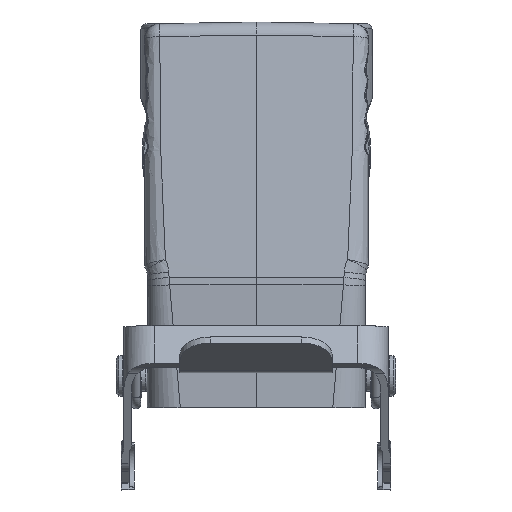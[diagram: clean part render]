
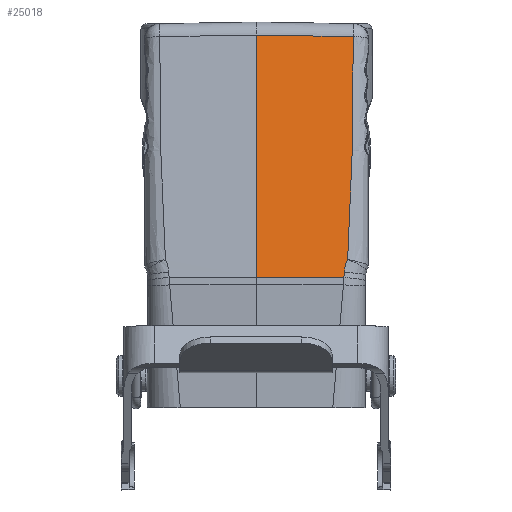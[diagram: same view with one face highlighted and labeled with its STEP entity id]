
A CAD part, left-side view. The second image highlights one B-rep face of the part: STEP entity #25018.
In plain terms, the highlighted planar face has unit normal (-0.989, -0.018, 0.145).
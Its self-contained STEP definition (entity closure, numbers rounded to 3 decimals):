
#76 = ORIENTED_EDGE ( 'NONE', *, *, #34374, .T. ) ;
#375 = LINE ( 'NONE', #24202, #25256 ) ;
#611 = CARTESIAN_POINT ( 'NONE',  ( -11.305, 47.093, 68.144 ) ) ;
#768 = CARTESIAN_POINT ( 'NONE',  ( -6.779, 28.169, 96.649 ) ) ;
#906 = CARTESIAN_POINT ( 'NONE',  ( -6.986, 28.2, 95.248 ) ) ;
#1002 = CARTESIAN_POINT ( 'NONE',  ( -10.369, 29.149, 72.365 ) ) ;
#1374 = VERTEX_POINT ( 'NONE', #24128 ) ;
#3706 = CARTESIAN_POINT ( 'NONE',  ( -5.218, 28.047, 107.248 ) ) ;
#3969 = CARTESIAN_POINT ( 'NONE',  ( -6.546, 28.138, 98.232 ) ) ;
#4071 = CARTESIAN_POINT ( 'NONE',  ( -10.619, 29.717, 70.721 ) ) ;
#4188 = CARTESIAN_POINT ( 'NONE',  ( -10.684, 29.786, 70.291 ) ) ;
#4880 = CARTESIAN_POINT ( 'NONE',  ( -11.198, 47.093, 68.867 ) ) ;
#6269 = DIRECTION ( 'NONE',  ( -0.015, 1., 0.017 ) ) ;
#6573 = CARTESIAN_POINT ( 'NONE',  ( -5.54, 28.057, 105.059 ) ) ;
#6654 = DIRECTION ( 'NONE',  ( 0.145, 0., 0.989 ) ) ;
#6709 = CARTESIAN_POINT ( 'NONE',  ( -6.382, 28.12, 99.343 ) ) ;
#6831 = B_SPLINE_CURVE_WITH_KNOTS ( 'NONE', 3,
 ( #25698, #22529, #7640, #37821 ),
 .UNSPECIFIED., .F., .F.,
 ( 4, 4 ),
 ( 0., 1. ),
 .UNSPECIFIED. ) ;
#7228 = CARTESIAN_POINT ( 'NONE',  ( -4.771, 28.04, 110.287 ) ) ;
#7365 = CARTESIAN_POINT ( 'NONE',  ( -4.971, 28.042, 108.927 ) ) ;
#7640 = CARTESIAN_POINT ( 'NONE',  ( -11.098, 41.354, 68.86 ) ) ;
#7820 = AXIS2_PLACEMENT_3D ( 'NONE', #16721, #8184, #38251 ) ;
#8184 = DIRECTION ( 'NONE',  ( -0.989, -0.017, 0.145 ) ) ;
#9579 = CARTESIAN_POINT ( 'NONE',  ( -6.333, 28.114, 99.675 ) ) ;
#9841 = CARTESIAN_POINT ( 'NONE',  ( -5.525, 28.057, 105.165 ) ) ;
#10365 = CARTESIAN_POINT ( 'NONE',  ( -4.839, 28.04, 109.824 ) ) ;
#10660 = FACE_OUTER_BOUND ( 'NONE', #18078, .T. ) ;
#11212 = ORIENTED_EDGE ( 'NONE', *, *, #23414, .F. ) ;
#12618 = CARTESIAN_POINT ( 'NONE',  ( -5.514, 28.056, 105.241 ) ) ;
#12878 = ORIENTED_EDGE ( 'NONE', *, *, #29741, .T. ) ;
#13116 = CARTESIAN_POINT ( 'NONE',  ( -6.19, 28.099, 100.644 ) ) ;
#13510 = CARTESIAN_POINT ( 'NONE',  ( -4.707, 28.039, 110.725 ) ) ;
#13807 = CARTESIAN_POINT ( 'NONE',  ( -10.818, 29.836, 69.387 ) ) ;
#14890 = VERTEX_POINT ( 'NONE', #26983 ) ;
#15633 = CARTESIAN_POINT ( 'NONE',  ( -7.186, 28.233, 93.891 ) ) ;
#15762 = CARTESIAN_POINT ( 'NONE',  ( -7.365, 28.265, 92.679 ) ) ;
#15887 = CARTESIAN_POINT ( 'NONE',  ( -5.51, 28.056, 105.265 ) ) ;
#16024 = CARTESIAN_POINT ( 'NONE',  ( -10.369, 29.149, 72.365 ) ) ;
#16721 = CARTESIAN_POINT ( 'NONE',  ( -11.305, 47.093, 68.144 ) ) ;
#16801 = CARTESIAN_POINT ( 'NONE',  ( -4.737, 28.039, 110.522 ) ) ;
#18078 = EDGE_LOOP ( 'NONE', ( #12878, #31036, #33351, #76, #11212, #32010 ) ) ;
#18476 = CARTESIAN_POINT ( 'NONE',  ( -10.429, 29.342, 71.972 ) ) ;
#18612 = VECTOR ( 'NONE', #6654, 1000. ) ;
#18723 = EDGE_CURVE ( 'NONE', #31611, #1374, #36209, .T. ) ;
#18751 = CARTESIAN_POINT ( 'NONE',  ( -7.135, 28.225, 94.235 ) ) ;
#19012 = CARTESIAN_POINT ( 'NONE',  ( -7.16, 28.229, 94.064 ) ) ;
#19139 = CARTESIAN_POINT ( 'NONE',  ( -4.719, 28.039, 110.64 ) ) ;
#19270 = CARTESIAN_POINT ( 'NONE',  ( -4.704, 28.039, 110.744 ) ) ;
#19587 = PLANE ( 'NONE',  #7820 ) ;
#21322 = CARTESIAN_POINT ( 'NONE',  ( -10.491, 29.494, 71.565 ) ) ;
#21483 = CARTESIAN_POINT ( 'NONE',  ( -9.832, 28.931, 75.978 ) ) ;
#21609 = CARTESIAN_POINT ( 'NONE',  ( -6.35, 28.116, 99.563 ) ) ;
#22273 = CARTESIAN_POINT ( 'NONE',  ( -4.409, 28.036, 112.748 ) ) ;
#22529 = CARTESIAN_POINT ( 'NONE',  ( -10.998, 35.615, 68.853 ) ) ;
#23414 = EDGE_CURVE ( 'NONE', #33837, #14890, #28008, .T. ) ;
#24128 = CARTESIAN_POINT ( 'NONE',  ( -10.369, 29.149, 72.365 ) ) ;
#24202 = CARTESIAN_POINT ( 'NONE',  ( -3.895, 28.041, 116.248 ) ) ;
#24508 = CARTESIAN_POINT ( 'NONE',  ( -5.633, 28.061, 104.43 ) ) ;
#24769 = CARTESIAN_POINT ( 'NONE',  ( -7.245, 28.243, 93.487 ) ) ;
#24911 = CARTESIAN_POINT ( 'NONE',  ( -6.431, 28.125, 99.012 ) ) ;
#25018 = ADVANCED_FACE ( 'NONE', ( #10660 ), #19587, .T. ) ;
#25256 = VECTOR ( 'NONE', #6269, 1000. ) ;
#25331 = EDGE_CURVE ( 'NONE', #1374, #38368, #37408, .T. ) ;
#25419 = VERTEX_POINT ( 'NONE', #31224 ) ;
#25595 = CARTESIAN_POINT ( 'NONE',  ( -10.898, 29.876, 68.845 ) ) ;
#25698 = CARTESIAN_POINT ( 'NONE',  ( -10.898, 29.876, 68.845 ) ) ;
#26848 = CARTESIAN_POINT ( 'NONE',  ( -10.748, 29.811, 69.855 ) ) ;
#26983 = CARTESIAN_POINT ( 'NONE',  ( -4.182, 47.093, 116.581 ) ) ;
#27536 = CARTESIAN_POINT ( 'NONE',  ( -7.143, 28.226, 94.18 ) ) ;
#27661 = CARTESIAN_POINT ( 'NONE',  ( -5.755, 28.067, 103.6 ) ) ;
#27806 = CARTESIAN_POINT ( 'NONE',  ( -5.571, 28.059, 104.849 ) ) ;
#28008 = LINE ( 'NONE', #611, #18612 ) ;
#28062 = CARTESIAN_POINT ( 'NONE',  ( -5.994, 28.082, 101.976 ) ) ;
#28582 = CARTESIAN_POINT ( 'NONE',  ( -3.895, 28.041, 116.248 ) ) ;
#28615 = CARTESIAN_POINT ( 'NONE',  ( -10.867, 29.858, 69.05 ) ) ;
#29259 = B_SPLINE_CURVE_WITH_KNOTS ( 'NONE', 3,
 ( #25595, #28615, #13807, #34798 ),
 .UNSPECIFIED., .F., .F.,
 ( 4, 4 ),
 ( 0., 1. ),
 .UNSPECIFIED. ) ;
#29741 = EDGE_CURVE ( 'NONE', #25419, #31611, #29259, .T. ) ;
#30570 = CARTESIAN_POINT ( 'NONE',  ( -5.517, 28.056, 105.218 ) ) ;
#30698 = CARTESIAN_POINT ( 'NONE',  ( -9.026, 28.652, 81.43 ) ) ;
#30822 = CARTESIAN_POINT ( 'NONE',  ( -5.511, 28.056, 105.256 ) ) ;
#31036 = ORIENTED_EDGE ( 'NONE', *, *, #18723, .T. ) ;
#31080 = CARTESIAN_POINT ( 'NONE',  ( -8.078, 28.409, 87.844 ) ) ;
#31224 = CARTESIAN_POINT ( 'NONE',  ( -10.898, 29.876, 68.845 ) ) ;
#31611 = VERTEX_POINT ( 'NONE', #36094 ) ;
#31737 = CARTESIAN_POINT ( 'NONE',  ( -4.712, 28.039, 110.691 ) ) ;
#32010 = ORIENTED_EDGE ( 'NONE', *, *, #37953, .F. ) ;
#33351 = ORIENTED_EDGE ( 'NONE', *, *, #25331, .T. ) ;
#33602 = CARTESIAN_POINT ( 'NONE',  ( -5.401, 28.052, 106.009 ) ) ;
#33837 = VERTEX_POINT ( 'NONE', #4880 ) ;
#34374 = EDGE_CURVE ( 'NONE', #38368, #14890, #375, .T. ) ;
#34798 = CARTESIAN_POINT ( 'NONE',  ( -10.748, 29.811, 69.855 ) ) ;
#36094 = CARTESIAN_POINT ( 'NONE',  ( -10.748, 29.811, 69.855 ) ) ;
#36209 = B_SPLINE_CURVE_WITH_KNOTS ( 'NONE', 3,
 ( #26848, #4188, #4071, #21322, #18476, #1002 ),
 .UNSPECIFIED., .F., .F.,
 ( 4, 2, 4 ),
 ( 0., 0.5, 1. ),
 .UNSPECIFIED. ) ;
#36764 = CARTESIAN_POINT ( 'NONE',  ( -7.603, 28.309, 91.065 ) ) ;
#37408 = B_SPLINE_CURVE_WITH_KNOTS ( 'NONE', 3,
 ( #16024, #21483, #30698, #31080, #36764, #15762, #24769, #15633, #19012, #27536, #18751, #906, #768, #3969, #24911, #6709, #21609, #9579, #13116, #28062, #27661, #24508, #27806, #6573, #9841, #30570, #12618, #30822, #15887, #33602, #3706, #7365, #10365, #7228, #16801, #19139, #31737, #13510, #19270, #22273, #37545, #28582 ),
 .UNSPECIFIED., .F., .F.,
 ( 4, 1, 1, 1, 1, 1, 1, 2, 2, 1, 1, 1, 2, 2, 1, 1, 1, 1, 1, 1, 1, 2, 2, 1, 1, 1, 1, 1, 1, 2, 2, 4 ),
 ( 0., 0.25, 0.375, 0.437, 0.469, 0.484, 0.492, 0.496, 0.5, 0.562, 0.594, 0.609, 0.617, 0.625, 0.687, 0.719, 0.734, 0.742, 0.746, 0.748, 0.749, 0.75, 0.75, 0.812, 0.844, 0.859, 0.867, 0.871, 0.873, 0.874, 0.875, 1. ),
 .UNSPECIFIED. ) ;
#37545 = CARTESIAN_POINT ( 'NONE',  ( -4.14, 28.037, 114.577 ) ) ;
#37821 = CARTESIAN_POINT ( 'NONE',  ( -11.198, 47.093, 68.867 ) ) ;
#37953 = EDGE_CURVE ( 'NONE', #25419, #33837, #6831, .T. ) ;
#38251 = DIRECTION ( 'NONE',  ( -0.145, 0., -0.989 ) ) ;
#38368 = VERTEX_POINT ( 'NONE', #38796 ) ;
#38796 = CARTESIAN_POINT ( 'NONE',  ( -3.895, 28.041, 116.248 ) ) ;
